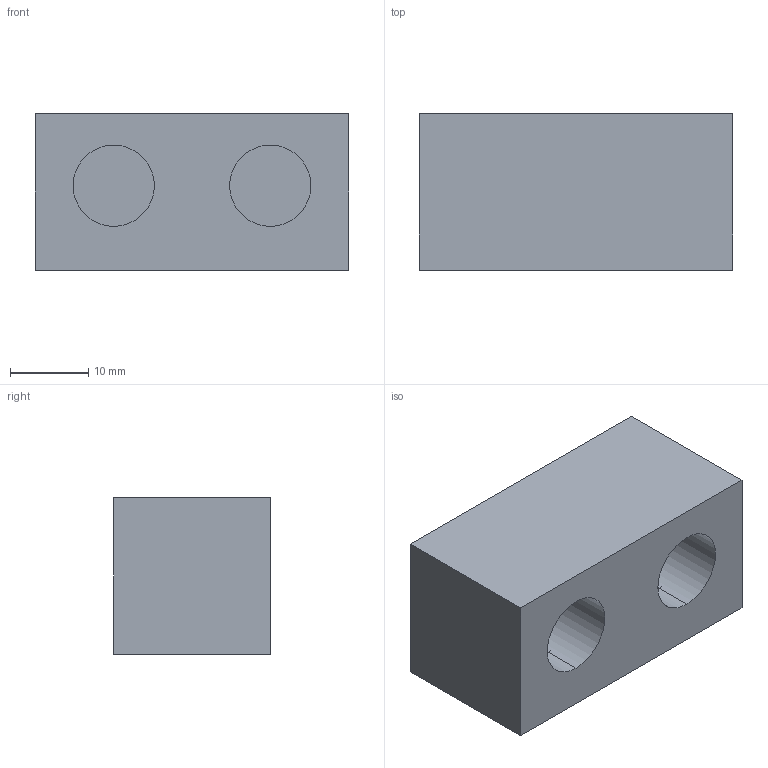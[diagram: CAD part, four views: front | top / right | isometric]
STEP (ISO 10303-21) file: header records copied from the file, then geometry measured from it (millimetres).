
FILE_DESCRIPTION (( 'STEP AP203' ), '1' );
FILE_NAME ('SOCKET.STEP', '2021-09-16T07:12:25', ( '' ), ( '' ), 'SwSTEP 2.0', 'SolidWorks 2019', '' );
FILE_SCHEMA (( 'CONFIG_CONTROL_DESIGN' ));
Length unit declared in the file: millimetre
Products named in the file (1): SOCKET
Bounding box: 40 x 20 x 20 mm (x, y, z)
Volume: 13919.4 mm3; surface area: 4931.8 mm2
Topology: 1 solids, 1 shells, 21 faces, 42 edges, 28 vertices
Faces by surface type: plane 11, cylinder 10
Entity records: 633 total; most frequent: DIRECTION 106, CARTESIAN_POINT 92, ORIENTED_EDGE 84, AXIS2_PLACEMENT_3D 42, EDGE_CURVE 42, VERTEX_POINT 28, EDGE_LOOP 26, LINE 22
